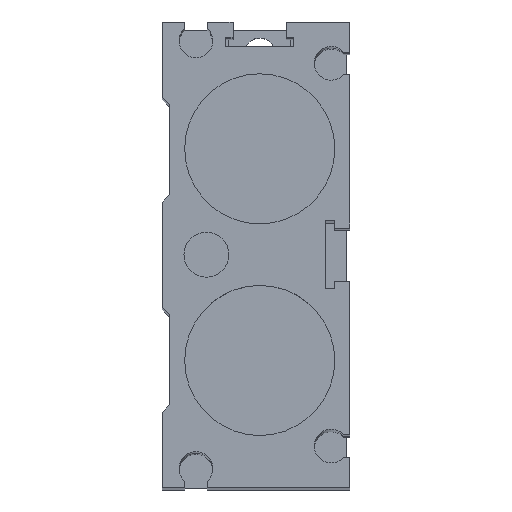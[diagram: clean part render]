
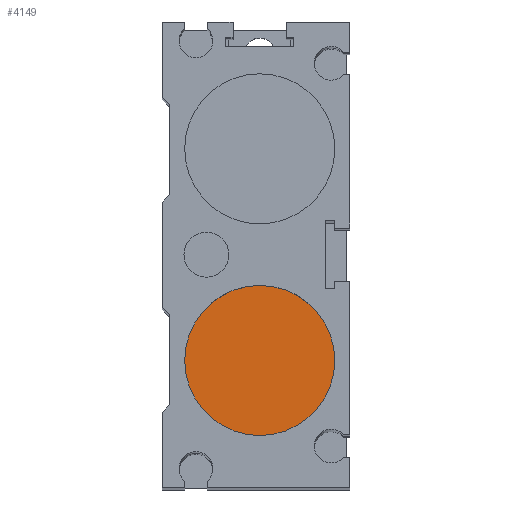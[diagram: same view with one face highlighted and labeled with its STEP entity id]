
A CAD part, top view. The second image highlights one B-rep face of the part: STEP entity #4149.
In plain terms, the highlighted planar face has unit normal (0, 0, 1).
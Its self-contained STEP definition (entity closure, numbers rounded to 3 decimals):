
#4126=CARTESIAN_POINT('',(10.0,-14.1,373.0));
#4127=VERTEX_POINT('',#4126);
#4128=CARTESIAN_POINT('',(0.0,-14.1,373.0));
#4129=DIRECTION('',(0.0,0.0,1.0));
#4130=DIRECTION('',(-1.0,0.0,0.0));
#4131=AXIS2_PLACEMENT_3D('',#4128,#4129,#4130);
#4132=CIRCLE('',#4131,10.0);
#4133=EDGE_CURVE('',#4127,#4127,#4132,.T.);
#4141=CARTESIAN_POINT('',(0.0,-14.1,373.0));
#4142=DIRECTION('',(0.0,0.0,-1.0));
#4143=DIRECTION('',(-1.0,0.0,0.0));
#4144=AXIS2_PLACEMENT_3D('',#4141,#4142,#4143);
#4145=PLANE('',#4144);
#4146=ORIENTED_EDGE('',*,*,#4133,.T.);
#4147=EDGE_LOOP('',(#4146));
#4148=FACE_OUTER_BOUND('',#4147,.T.);
#4149=ADVANCED_FACE('',(#4148),#4145,.F.);
